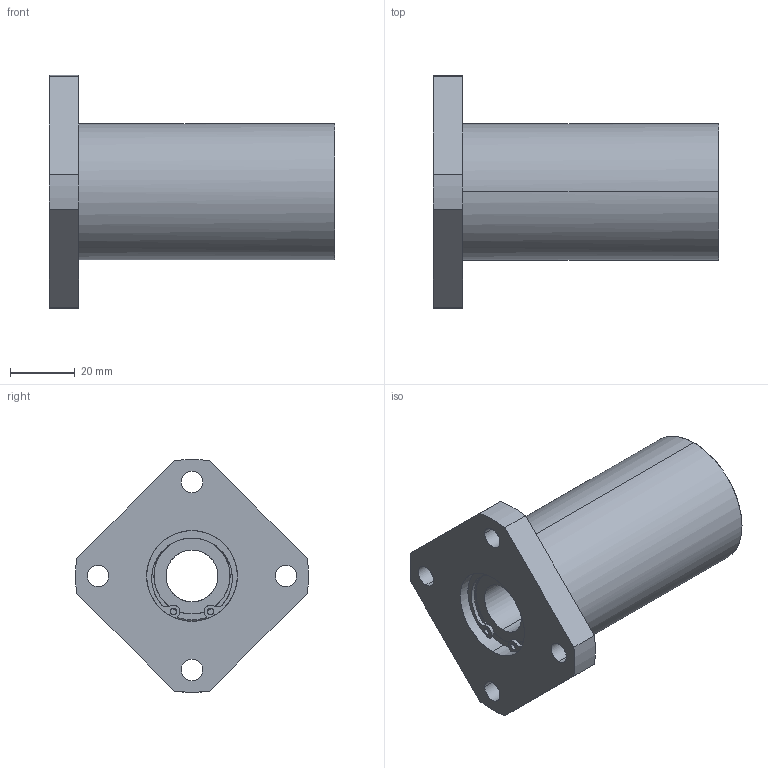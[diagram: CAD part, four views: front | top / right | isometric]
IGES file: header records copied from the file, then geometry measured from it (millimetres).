
Global section: file name: No Iges File Name specified; native system: AutoDesk Inventor R11.0; preprocessor: AutoDesk Inventor Iges Exporter R11.0; author: No Author specified; organization: No Organization specified; date: 20170921.174808; units: millimetre
Bounding box: 88 x 71.91 x 71.95 mm (x, y, z)
Surface area: 24938.4 mm2 (no closed solid volume)
Topology: 0 solids, 0 shells, 92 faces, 688 edges, 688 vertices
Faces by surface type: bspline 92
